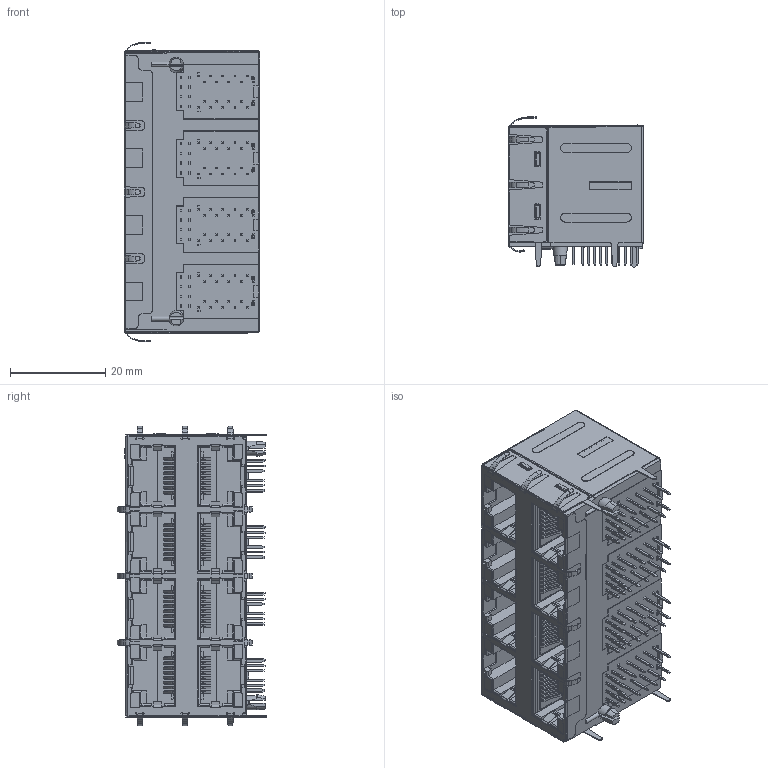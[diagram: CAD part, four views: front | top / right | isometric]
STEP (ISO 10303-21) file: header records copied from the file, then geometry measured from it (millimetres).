
FILE_DESCRIPTION((''),'2;1');
FILE_NAME('2X4_201906240001_ASM_1_ASM','2021-10-25T08:26:49',('Administrator'),(''),'CREO PARAMETRIC BY PTC INC, 2018400','CREO PARAMETRIC BY PTC INC, 2018400','');
FILE_SCHEMA(('CONFIG_CONTROL_DESIGN'));
Products named in the file (21): 2X4_B_SHELL_1-4_1; 2X4_HSG_1-4_1; P-40_1; PIN1-4_1; PIN2-4_1; LED_PIN-4_1; CK01_1-4_1; CX02_1-4_1; 800_1; 600_1; 100_1; 200_1; 300_1; 700_1; 400_1; 500_1; PINCX03_1-4_ASM_1_ASM; G_LED_1-4_1; Y_LED_1-4_1; 2X4_F_SHELL_0001_1; 2X4_201906240001_ASM_1_ASM
Assembly tree (163 placements, depth 3):
  2X4_201906240001_ASM_1_ASM
    2X4_B_SHELL_1-4_1
    2X4_HSG_1-4_1
    P-40_1  x4
    PIN1-4_1  x40
    PIN2-4_1  x40
    LED_PIN-4_1  x32
    CK01_1-4_1  x4
    CX02_1-4_1  x8
    PINCX03_1-4_ASM_1_ASM  x8
      800_1
      600_1
      100_1
      200_1
      300_1
      700_1
      400_1
      500_1
    G_LED_1-4_1  x8
    Y_LED_1-4_1  x8
    2X4_F_SHELL_0001_1
Bounding box: 28.4 x 31.46 x 62.92 mm (x, y, z)
Volume: 12370.5 mm3; surface area: 42891.5 mm2
Topology: 211 solids, 211 shells, 8686 faces, 23623 edges, 15291 vertices
Faces by surface type: plane 7316, cylinder 1248, bspline 96, torus 20, cone 6
Entity records: 100203 total; most frequent: CARTESIAN_POINT 21159, ORIENTED_EDGE 16902, DIRECTION 15300, EDGE_CURVE 8451, VECTOR 7188, LINE 7188, VERTEX_POINT 5391, AXIS2_PLACEMENT_3D 4056
